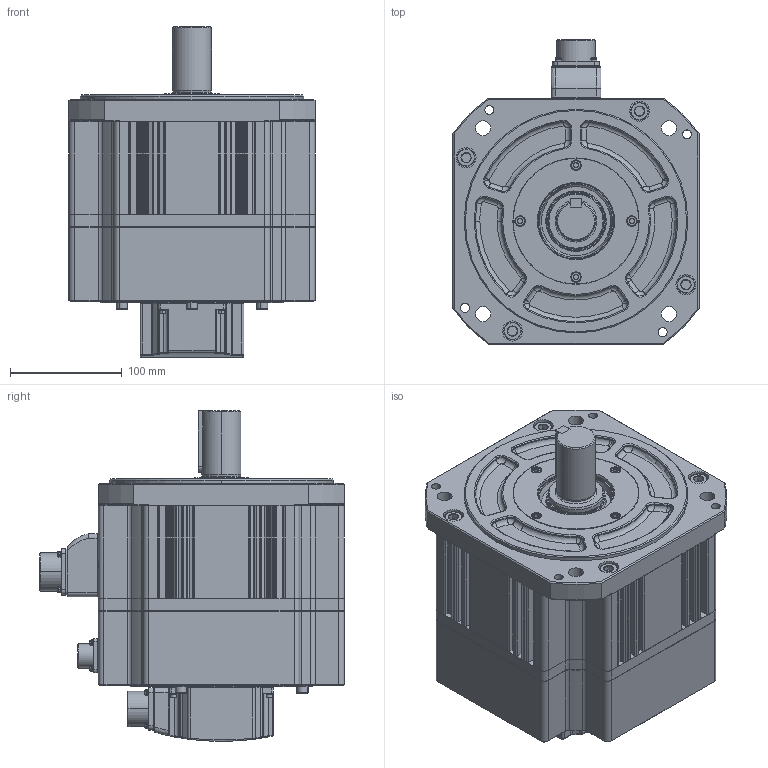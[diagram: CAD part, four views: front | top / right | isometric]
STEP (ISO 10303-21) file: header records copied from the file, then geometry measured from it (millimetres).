
FILE_DESCRIPTION (( 'STEP AP214' ), '1' );
FILE_NAME ('FM22GA007-1G01_Out Line(APM-FG22D_K3,FG20G_K3,FG12M_K3).STEP', '2019-07-10T07:34:10', ( '' ), ( '' ), 'SwSTEP 2.0', 'SolidWorks 2011', '' );
FILE_SCHEMA (( 'AUTOMOTIVE_DESIGN' ));
Length unit declared in the file: millimetre
Products named in the file (1): FM22GA007-1G01_Out Line(APM-FG22D_K3,FG20G_K3,FG12M_K3)
Bounding box: 220 x 272.5 x 295.7 mm (x, y, z)
Volume: 8193939.1 mm3; surface area: 742829.2 mm2
Topology: 76 solids, 76 shells, 2595 faces, 6418 edges, 4062 vertices
Faces by surface type: cylinder 1010, plane 905, cone 346, torus 183, bspline 151
Entity records: 115364 total; most frequent: CARTESIAN_POINT 23846, DIRECTION 13409, ORIENTED_EDGE 12672, EDGE_CURVE 6336, AXIS2_PLACEMENT_3D 5193, VERTEX_POINT 4062, VECTOR 3023, LINE 3023
